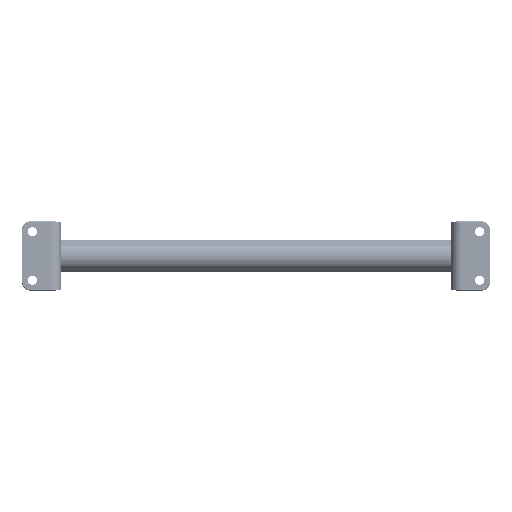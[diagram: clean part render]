
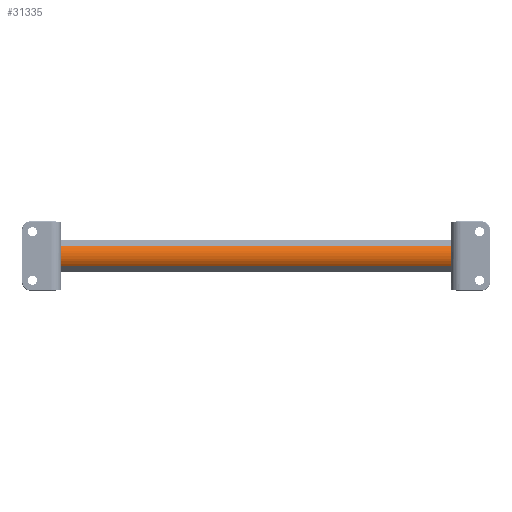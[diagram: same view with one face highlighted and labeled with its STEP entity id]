
A CAD part, front view. The second image highlights one B-rep face of the part: STEP entity #31335.
In plain terms, the highlighted cylindrical face has radius 19 mm (diameter 38 mm), a partial arc.
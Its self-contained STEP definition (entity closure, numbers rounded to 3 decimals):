
#2959 = DIRECTION ( 'NONE',  ( 0., 0., -1. ) ) ;
#3879 = LINE ( 'NONE', #17749, #20825 ) ;
#5451 = DIRECTION ( 'NONE',  ( 1., 0., 0. ) ) ;
#8106 = CARTESIAN_POINT ( 'NONE',  ( -225., -15.158, -11.456 ) ) ;
#11276 = DIRECTION ( 'NONE',  ( 0., 0., 1. ) ) ;
#11960 = DIRECTION ( 'NONE',  ( 0., 0., -1. ) ) ;
#13557 = VERTEX_POINT ( 'NONE', #46953 ) ;
#15855 = VECTOR ( 'NONE', #31674, 1000. ) ;
#16956 = FACE_OUTER_BOUND ( 'NONE', #85230, .T. ) ;
#17042 = VERTEX_POINT ( 'NONE', #80721 ) ;
#17749 = CARTESIAN_POINT ( 'NONE',  ( 225., -15.158, -11.456 ) ) ;
#20825 = VECTOR ( 'NONE', #30381, 1000. ) ;
#21962 = ORIENTED_EDGE ( 'NONE', *, *, #51046, .T. ) ;
#23553 = ORIENTED_EDGE ( 'NONE', *, *, #62623, .F. ) ;
#29033 = CARTESIAN_POINT ( 'NONE',  ( -225., 0., 0. ) ) ;
#30381 = DIRECTION ( 'NONE',  ( 1., 0., 0. ) ) ;
#30465 = DIRECTION ( 'NONE',  ( -1., 0., 0. ) ) ;
#31335 = ADVANCED_FACE ( 'NONE', ( #16956 ), #70697, .T. ) ;
#31674 = DIRECTION ( 'NONE',  ( -1., 0., 0. ) ) ;
#32566 = AXIS2_PLACEMENT_3D ( 'NONE', #58766, #5451, #11960 ) ;
#37414 = AXIS2_PLACEMENT_3D ( 'NONE', #29033, #62335, #2959 ) ;
#38228 = ORIENTED_EDGE ( 'NONE', *, *, #61358, .T. ) ;
#40272 = CARTESIAN_POINT ( 'NONE',  ( 225., -15.158, -11.456 ) ) ;
#41989 = ORIENTED_EDGE ( 'NONE', *, *, #63910, .T. ) ;
#46953 = CARTESIAN_POINT ( 'NONE',  ( -225., -15.158, 11.456 ) ) ;
#49935 = CARTESIAN_POINT ( 'NONE',  ( 225., 0., 0. ) ) ;
#51046 = EDGE_CURVE ( 'NONE', #13557, #69061, #74743, .T. ) ;
#58766 = CARTESIAN_POINT ( 'NONE',  ( 225., 0., 0. ) ) ;
#61358 = EDGE_CURVE ( 'NONE', #17042, #13557, #64956, .T. ) ;
#62335 = DIRECTION ( 'NONE',  ( 1., 0., 0. ) ) ;
#62623 = EDGE_CURVE ( 'NONE', #17042, #77636, #69842, .T. ) ;
#63910 = EDGE_CURVE ( 'NONE', #69061, #77636, #3879, .T. ) ;
#64956 = LINE ( 'NONE', #78885, #15855 ) ;
#65168 = AXIS2_PLACEMENT_3D ( 'NONE', #49935, #30465, #11276 ) ;
#69061 = VERTEX_POINT ( 'NONE', #8106 ) ;
#69842 = CIRCLE ( 'NONE', #32566, 19. ) ;
#70697 = CYLINDRICAL_SURFACE ( 'NONE', #65168, 19. ) ;
#74743 = CIRCLE ( 'NONE', #37414, 19. ) ;
#77636 = VERTEX_POINT ( 'NONE', #40272 ) ;
#78885 = CARTESIAN_POINT ( 'NONE',  ( 225., -15.158, 11.456 ) ) ;
#80721 = CARTESIAN_POINT ( 'NONE',  ( 225., -15.158, 11.456 ) ) ;
#85230 = EDGE_LOOP ( 'NONE', ( #21962, #41989, #23553, #38228 ) ) ;
